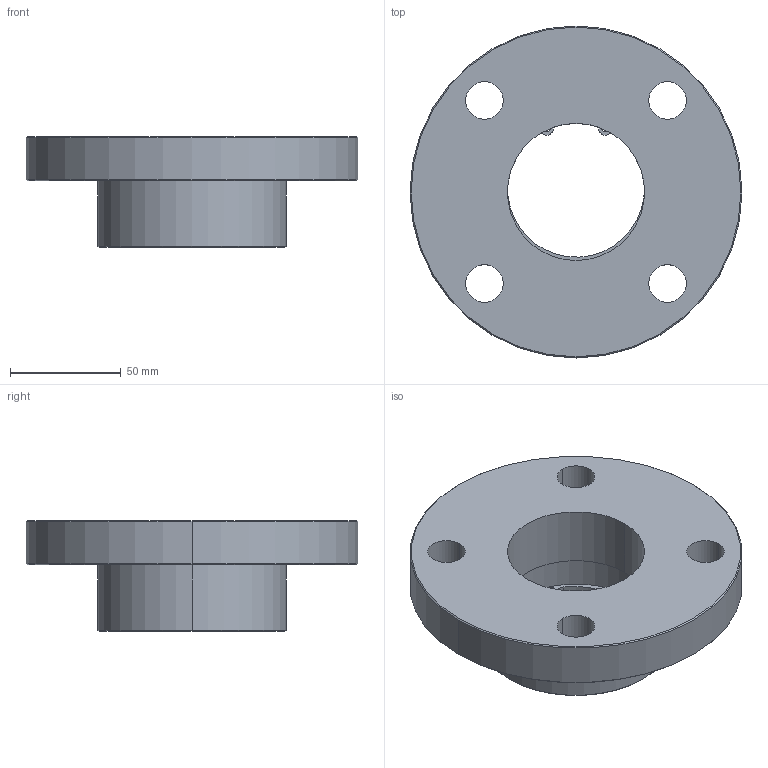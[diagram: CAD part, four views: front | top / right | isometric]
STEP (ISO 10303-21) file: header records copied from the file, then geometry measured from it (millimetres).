
FILE_DESCRIPTION (( 'STEP AP203' ), '1' );
FILE_NAME ('MJ5-EFM.STEP', '2024-01-15T15:32:02', ( '' ), ( '' ), 'SwSTEP 2.0', 'SolidWorks 2022', '' );
FILE_SCHEMA (( 'CONFIG_CONTROL_DESIGN' ));
Length unit declared in the file: millimetre
Products named in the file (1): MJ5-EFM
Bounding box: 150 x 150 x 50 mm (x, y, z)
Volume: 341712.6 mm3; surface area: 62516.7 mm2
Topology: 2 solids, 2 shells, 48 faces, 114 edges, 74 vertices
Faces by surface type: cylinder 32, plane 10, cone 6
Entity records: 1523 total; most frequent: DIRECTION 282, CARTESIAN_POINT 237, ORIENTED_EDGE 228, AXIS2_PLACEMENT_3D 119, EDGE_CURVE 114, VERTEX_POINT 74, CIRCLE 70, EDGE_LOOP 66
